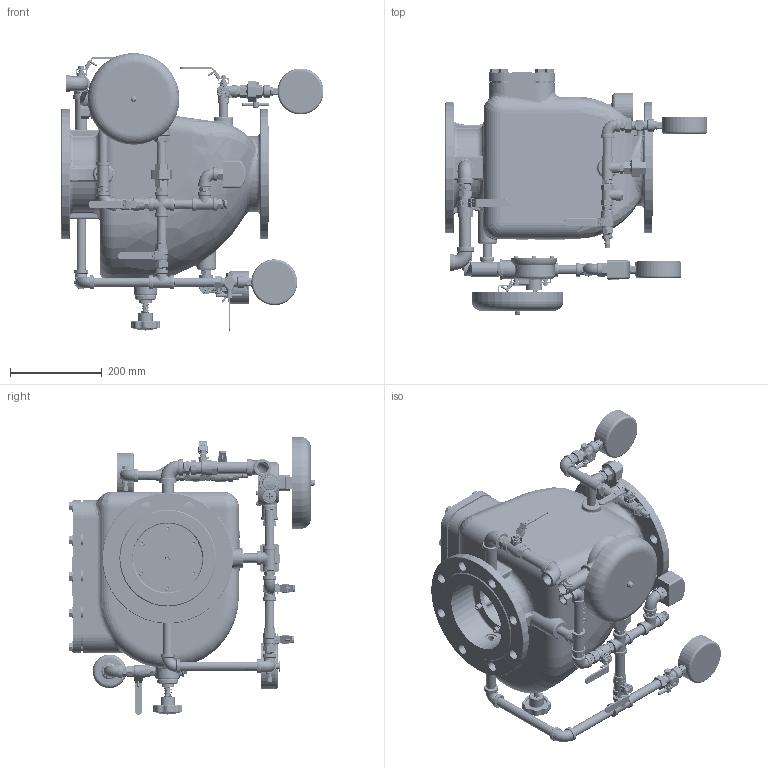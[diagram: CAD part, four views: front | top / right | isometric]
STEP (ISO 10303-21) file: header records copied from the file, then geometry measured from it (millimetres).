
FILE_DESCRIPTION((''),'2;1');
FILE_NAME('M1--DN1500001_ASM','2026-04-23T14:07:23',('administrator'),(''),'CREO PARAMETRIC BY PTC INC, 2021404','CREO PARAMETRIC BY PTC INC, 2021404','');
FILE_SCHEMA(('CONFIG_CONTROL_DESIGN'));
Products named in the file (69): 150_X2_5F006A219020578B_X0_; _X2_96005EA7_X0_; _X2_96005EA7_X0_O_X2_578-539473; _X2_96005EA7_X0_O_X2_578-539474; _X2_960074E3_X0_; _X2_960074E35BC65C0157AB_X0_; _X2_538B677F_X0_; _X2_5185538B677F_X0_; _X2_5E7357AB5708_X0__GB_-539480; _X2_57AB5708_X0__GB_93-87_6; _X2_87BA9489_X0__GB_T_70-539482; _X2_87BA9489_X0__GB_T_70-539483; 150_X2_5E725F0F62A58B6696009600_ASM; _X2_960074E38F6C52A88F74_X0_; _X2_5E7357AB5708_X0__GB_-539485; _X2_87BA9489_X0__GB_T_70_1_M8_X; _X2_4F4D9500886582AF_X0_; _X2_590D4F4D9500_X0_; _X2_590D4F4D6321950064464EF6_X0; O_X2_578B5708_X0_2_65_X_D722_6; _X2_590D4F4D6321950065CB8F6C8F7; _X2_590D4F4D630994AE_X0_; _X2_5F397C27_X0_; _X2_590D4F4D9500621059577EC44EF_ASM; _X2_5B9E4F53_X0_1-1219; _X2_570687BA6BCD_X0__ASM; 150_X2_5E725F0F62A58B669-539496; 150_X2_5E725F0F62A58B669-539497; _X2_5E7357AB5708_X0__GB_-539498; _X2_516D89D287BA6813_X0__GB_T_5; 150_X2_5E725F0F62A58B66960090E8_ASM; M1-DN1500001_ASM; 0001; 0003; 10001; 0016; 0004; _X2_5B9E4F53_X0_1-1273; _X2_5B9E4F53_X0_2-1274; _X2_5B9E4F53_X0_3-1275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
Assembly tree (133 placements, depth 5):
  M1--DN1500001_ASM
    M1-DN1500001_ASM
      150_X2_5E725F0F62A58B66960090E8_ASM
        150_X2_5F006A219020578B_X0_
        _X2_96005EA7_X0_
        _X2_96005EA7_X0_O_X2_578-539473
        _X2_96005EA7_X0_O_X2_578-539474
        150_X2_5E725F0F62A58B6696009600_ASM
          _X2_960074E3_X0_
          _X2_960074E35BC65C0157AB_X0_
          _X2_538B677F_X0_
          _X2_5185538B677F_X0_
          _X2_5E7357AB5708_X0__GB_-539480
          _X2_57AB5708_X0__GB_93-87_6
          _X2_87BA9489_X0__GB_T_70-539482
          _X2_87BA9489_X0__GB_T_70-539483  x7
        _X2_960074E38F6C52A88F74_X0_
        _X2_5E7357AB5708_X0__GB_-539485  x6
        _X2_87BA9489_X0__GB_T_70_1_M8_X  x6
        _X2_590D4F4D9500621059577EC44EF_ASM
          _X2_4F4D9500886582AF_X0_
          _X2_590D4F4D9500_X0_
          _X2_590D4F4D6321950064464EF6_X0
          O_X2_578B5708_X0_2_65_X_D722_6  x2
          _X2_590D4F4D6321950065CB8F6C8F7
          _X2_590D4F4D630994AE_X0_
          _X2_5F397C27_X0_
        _X2_570687BA6BCD_X0__ASM
          _X2_5B9E4F53_X0_1-1219
        150_X2_5E725F0F62A58B669-539496
        150_X2_5E725F0F62A58B669-539497
        _X2_5E7357AB5708_X0__GB_-539498  x10
        _X2_516D89D287BA6813_X0__GB_T_5  x10
    0001  x13
    0003  x4
    10001
    0016  x2
    0004  x7
    _00_ASM
      _X2_5B9E4F53_X0_1-1273
      _X2_5B9E4F53_X0_2-1274
      _X2_5B9E4F53_X0_3-1275
      _X2_5B9E4F53_X0_4-1276
    G5000  x2
    0020
    0021
    G8000
    0019
    G11000
    0006  x2
    1000001  x2
    G14000  x2
    G19000
    0002  x2
    G7000
    0008
    0022
    G9000
    G9000  x2
    0023  x2
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Bounding box: 573 x 537.9 x 605.89 mm (x, y, z)
Volume: 4647981 mm3; surface area: 2964519.1 mm2
Topology: 128 solids, 137 shells, 11577 faces, 30875 edges, 19821 vertices
Faces by surface type: plane 4288, cylinder 2792, cone 1390, torus 1252, bspline 1240, extrusion 410, sphere 197, revolution 8
Entity records: 376887 total; most frequent: CARTESIAN_POINT 163409, ORIENTED_EDGE 46194, DIRECTION 42094, EDGE_CURVE 23102, AXIS2_PLACEMENT_3D 15375, VERTEX_POINT 14951, VECTOR 11336, LINE 11035
